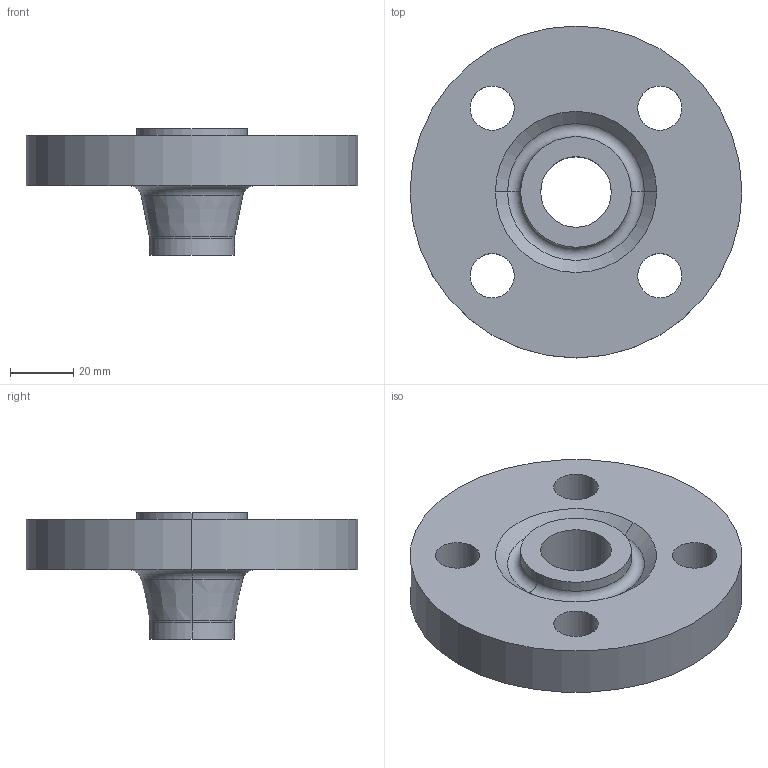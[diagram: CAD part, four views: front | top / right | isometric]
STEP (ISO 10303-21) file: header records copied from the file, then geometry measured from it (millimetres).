
FILE_DESCRIPTION (( 'STEP AP214' ), '1' );
FILE_NAME ('PN40 DN20 Type 11 - Type H Face.STEP', '2018-12-29T18:19:12', ( '' ), ( '' ), 'SwSTEP 2.0', 'SolidWorks 2019', '' );
FILE_SCHEMA (( 'AUTOMOTIVE_DESIGN' ));
Length unit declared in the file: millimetre
Products named in the file (1): PN40 DN20 Type 11 - Type H Face
Bounding box: 105 x 105 x 40 mm (x, y, z)
Volume: 127392.5 mm3; surface area: 28595 mm2
Topology: 1 solids, 1 shells, 30 faces, 68 edges, 42 vertices
Faces by surface type: cylinder 16, torus 6, cone 4, plane 4
Entity records: 914 total; most frequent: DIRECTION 178, CARTESIAN_POINT 141, ORIENTED_EDGE 136, AXIS2_PLACEMENT_3D 79, EDGE_CURVE 68, CIRCLE 48, VERTEX_POINT 42, EDGE_LOOP 42
